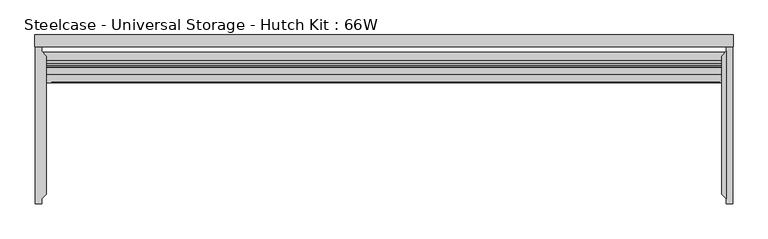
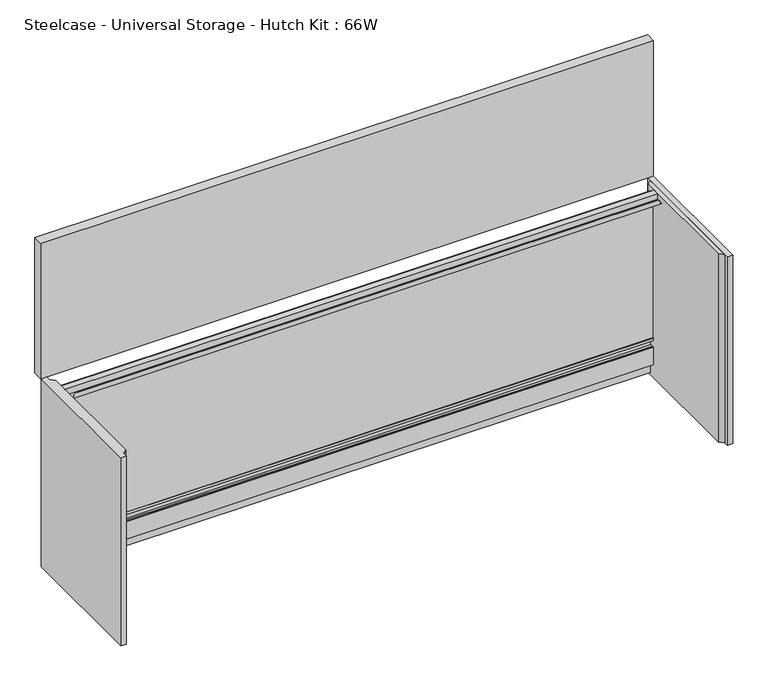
"""IFC4 building model written with IfcOpenShell, lengths in millimetres: furniture geometry, Steelcase - Universal Storage - Hutch Kit : 66W."""

from ifc_helpers import new_model, si_unit, frame, origin, place, context, project, spatial, polyline, circle_curve, outline, extrude, faceted_brep, source, transform, mapped, element, save
from ifc_brep_helpers import plane_surface, cylinder_surface, advanced_brep


def steelcase_universal_storage_hutch_kit_66w_01468b2b(model_context):
    return source(origin(), model_context, "Body", "SolidModel", [
        extrude(outline(polyline([(1660.2202, -39.6494001), (1660.2202, -393.4459972), (1649.222, -382.447795), (1649.222, -50.6476006), (1660.2202, -39.6494001)])), frame((0.0, 0.0, 723.9), z_axis=(0.0, 0.0, 1.0), x_axis=(1.0, 0.0, 0.0)), (0.0, 0.0, 1.0), 544.8554),
        extrude(outline(polyline([(1660.2202, -27.9400006), (1675.5872, -27.9400006), (1675.5872, -405.1553842), (1660.2202, -405.1553842), (1660.2202, -27.9400006)])), frame((0.0, 0.0, 723.9), z_axis=(0.0, 0.0, 1.0), x_axis=(1.0, 0.0, 0.0)), (0.0, 0.0, 1.0), 544.8554),
        extrude(outline(polyline([(16.1798, -405.1553842), (0.8128, -405.1553842), (0.8128, -27.9400006), (16.1798, -27.9400006), (16.1798, -39.6494001), (27.178, -50.6476006), (27.178, -382.447795), (16.1798, -393.4459972), (16.1798, -405.1553842)])), frame((0.0, 0.0, 723.9), z_axis=(0.0, 0.0, 1.0), x_axis=(1.0, 0.0, 0.0)), (0.0, 0.0, 1.0), 544.8554),
        advanced_brep(
        [(1649.222, -78.4097988, 1250.975386), (1649.222, -78.4097988, 1268.7554), (1649.222, -94.7420005, 1268.7554), (1649.222, -94.7420005, 1251.8898651), (1649.222, -114.2492006, 1251.8898651), (1649.222, -114.2492006, 1250.975386), (1649.222, -93.8275986, 1250.975386), (1649.222, -93.8275986, 1267.8410717), (1649.222, -79.3242007, 1267.8410717), (1649.222, -79.3242007, 1250.975386), (27.178, -78.4097988, 1250.975386), (27.178, -79.3242007, 1250.975386), (27.178, -79.3242007, 1267.8410717), (27.178, -93.8275986, 1267.8410717), (27.178, -93.8275986, 1250.975386), (27.178, -114.2492006, 1250.975386), (27.178, -114.2492006, 1251.8898651), (27.178, -94.7420005, 1251.8898651), (27.178, -94.7420005, 1268.7554), (27.178, -78.4097988, 1268.7554), (40.5892014, -114.2492006, 1251.8898651), (40.5892014, -113.3348006, 1251.8898651), (1644.6809148, -113.3348006, 1251.8898651), (1644.6809148, -114.2492006, 1251.8898651), (1644.6809148, -114.2492006, 1256.0554636), (1635.7909148, -114.2492006, 1264.9454636), (49.4792014, -114.2492006, 1264.9454636), (40.5892014, -114.2492006, 1256.0554636), (40.5892014, -113.3348006, 1256.0554636), (49.4792014, -113.3348006, 1264.9454636), (1635.7909148, -113.3348006, 1264.9454636), (1644.6809148, -113.3348006, 1256.0554636)],
        [
            (0, 1),
            (1, 2),
            (2, 3),
            (3, 4),
            (4, 5),
            (5, 6),
            (6, 7),
            (7, 8),
            (8, 9),
            (9, 0),
            (10, 11),
            (11, 12),
            (12, 13),
            (13, 14),
            (14, 15),
            (15, 16),
            (16, 17),
            (17, 18),
            (18, 19),
            (19, 10),
            (0, 10),
            (19, 1),
            (18, 2),
            (17, 3),
            (16, 20),
            (20, 21),
            (21, 22),
            (22, 23),
            (23, 4),
            (23, 24),
            (24, 25, circle_curve(frame((1635.7909148, -114.2492006, 1256.0554636), z_axis=(0.0, -1.0, 0.0), x_axis=(1.0, 0.0, 0.0)), 8.89)),
            (25, 26),
            (26, 27, circle_curve(frame((49.4792014, -114.2492006, 1256.0554636), z_axis=(0.0, -1.0, 0.0), x_axis=(1.0, 0.0, 0.0)), 8.89)),
            (27, 20),
            (15, 5),
            (14, 6),
            (13, 7),
            (12, 8),
            (11, 9),
            (28, 29, circle_curve(frame((49.4792014, -113.3348006, 1256.0554636), z_axis=(0.0, 1.0, 0.0), x_axis=(1.0, 0.0, 0.0)), 8.89)),
            (29, 30),
            (30, 31, circle_curve(frame((1635.7909148, -113.3348006, 1256.0554636), z_axis=(0.0, 1.0, 0.0), x_axis=(1.0, 0.0, 0.0)), 8.89)),
            (31, 22),
            (21, 28),
            (27, 28),
            (31, 24),
            (30, 25),
            (29, 26),
        ],
        [
            plane_surface(frame((1649.222, -78.4097988, 1268.7554), z_axis=(1.0, 0.0, 0.0), x_axis=(0.0, 0.0, 1.0))),
            plane_surface(frame((27.178, -78.4097988, 1268.7554), z_axis=(-1.0, 0.0, 0.0), x_axis=(0.0, 0.0, -1.0))),
            plane_surface(frame((1649.222, -78.4097988, 1250.975386), z_axis=(0.0, 1.0, 0.0), x_axis=(-1.0, 0.0, 0.0))),
            plane_surface(frame((1649.222, -78.4097988, 1268.7554), z_axis=(0.0, 0.0, 1.0), x_axis=(-1.0, 0.0, 0.0))),
            plane_surface(frame((1649.222, -94.7420005, 1268.7554), z_axis=(0.0, -1.0, 0.0), x_axis=(-1.0, 0.0, 0.0))),
            plane_surface(frame((1649.222, -94.7420005, 1251.8898651), z_axis=(0.0, 0.0, 1.0), x_axis=(-1.0, 0.0, 0.0))),
            plane_surface(frame((1649.222, -114.2492006, 1251.8898651), z_axis=(0.0, -1.0, 0.0), x_axis=(-1.0, 0.0, 0.0))),
            plane_surface(frame((1649.222, -114.2492006, 1250.975386), z_axis=(0.0, 0.0, -1.0), x_axis=(-1.0, 0.0, 0.0))),
            plane_surface(frame((1649.222, -93.8275986, 1250.975386), z_axis=(0.0, 1.0, 0.0), x_axis=(-1.0, 0.0, 0.0))),
            plane_surface(frame((1649.222, -93.8275986, 1267.8410717), z_axis=(0.0, 0.0, -1.0), x_axis=(-1.0, 0.0, 0.0))),
            plane_surface(frame((1649.222, -79.3242007, 1267.8410717), z_axis=(0.0, -1.0, 0.0), x_axis=(-1.0, 0.0, 0.0))),
            plane_surface(frame((1649.222, -79.3242007, 1250.975386), z_axis=(0.0, 0.0, -1.0), x_axis=(-1.0, 0.0, 0.0))),
            plane_surface(frame((40.5892014, -113.3348006, 1251.8898651), z_axis=(0.0, 1.0, 0.0), x_axis=(0.0, 0.0, 1.0))),
            plane_surface(frame((40.5892014, -114.2492006, 1256.0554636), z_axis=(-1.0, 0.0, 0.0), x_axis=(0.0, 1.0, 0.0))),
            plane_surface(frame((1644.6809148, -114.2492006, 1251.8898651), z_axis=(1.0, 0.0, 0.0), x_axis=(0.0, 1.0, 0.0))),
            cylinder_surface(frame((1635.7909148, -113.3348006, 1256.0554636), z_axis=(0.0, -1.0, 0.0), x_axis=(1.0, 0.0, 0.0)), 8.89),
            plane_surface(frame((1635.7909148, -114.2492006, 1264.9454636), z_axis=(0.0, 0.0, 1.0), x_axis=(0.0, 1.0, 0.0))),
            cylinder_surface(frame((49.4792014, -113.3348006, 1256.0554636), z_axis=(0.0, -1.0, 0.0), x_axis=(1.0, 0.0, 0.0)), 8.89),
        ],
        [
            (0, [[1, 2, 3, 4, 5, 6, 7, 8, 9, 10]]),
            (1, [[11, 12, 13, 14, 15, 16, 17, 18, 19, 20]]),
            (2, [[-1, 21, -20, 22]]),
            (3, [[-2, -22, -19, 23]]),
            (4, [[-3, -23, -18, 24]]),
            (5, [[-4, -24, -17, 25, 26, 27, 28, 29]]),
            (6, [[-5, -29, 30, 31, 32, 33, 34, -25, -16, 35]]),
            (7, [[-6, -35, -15, 36]]),
            (8, [[-7, -36, -14, 37]]),
            (9, [[-8, -37, -13, 38]]),
            (10, [[-9, -38, -12, 39]]),
            (11, [[-10, -39, -11, -21]]),
            (12, [[40, 41, 42, 43, -27, 44]]),
            (13, [[-34, 45, -44, -26]]),
            (14, [[-30, -28, -43, 46]]),
            (15, [[-31, -46, -42, 47]]),
            (16, [[-32, -47, -41, 48]]),
            (17, [[-33, -48, -40, -45]]),
        ],
    ),
        faceted_brep([(1649.222, -60.7822002, 848.0044), (1649.222, -60.7822002, 833.8820223), (1649.222, -74.2695991, 833.8820223), (1649.222, -74.2695991, 839.215999), (1649.222, -75.7936022, 839.215999), (1649.222, -75.7936022, 831.8500242), (1649.222, -60.7652681, 831.8500242), (1649.222, -60.7652681, 808.7613899), (1649.222, -64.6684001, 808.7613899), (1649.222, -64.6684001, 812.8000242), (1649.222, -70.7136025, 812.8000242), (1649.222, -70.7136025, 806.4499758), (1649.222, -74.2695991, 806.4499758), (1649.222, -74.2695991, 812.8000242), (1649.222, -75.7936022, 812.8000242), (1649.222, -75.7936022, 762.0), (1649.222, -60.7652681, 762.0), (1649.222, -60.7652681, 730.377), (1649.222, -50.6476006, 730.377), (1649.222, -50.6476006, 848.0044), (27.178, -60.7822002, 848.0044), (27.178, -50.6476006, 848.0044), (27.178, -50.6476006, 730.377), (27.178, -60.7652681, 730.377), (27.178, -60.7652681, 762.0), (27.178, -75.7936022, 762.0), (27.178, -75.7936022, 812.8000242), (27.178, -74.2695991, 812.8000242), (27.178, -74.2695991, 806.4499758), (27.178, -70.7136025, 806.4499758), (27.178, -70.7136025, 812.8000242), (27.178, -64.6684001, 812.8000242), (27.178, -64.6684001, 808.7613899), (27.178, -60.7652681, 808.7613899), (27.178, -60.7652681, 831.8500242), (27.178, -75.7936022, 831.8500242), (27.178, -75.7936022, 839.215999), (27.178, -74.2695991, 839.215999), (27.178, -74.2695991, 833.8820223), (27.178, -60.7822002, 833.8820223), (16.1798, -50.6476006, 730.377), (16.1798, -41.1480006, 730.377), (1660.2202, -41.1480006, 730.377), (1660.2202, -50.6476006, 730.377), (1660.2202, -50.6476006, 848.0044), (1660.2202, -41.1480006, 848.0044), (16.1798, -41.1480006, 848.0044), (16.1798, -50.6476006, 848.0044)], [[[0, 1, 2, 3, 4, 5, 6, 7, 8, 9, 10, 11, 12, 13, 14, 15, 16, 17, 18, 19]], [[20, 21, 22, 23, 24, 25, 26, 27, 28, 29, 30, 31, 32, 33, 34, 35, 36, 37, 38, 39]], [[1, 0, 20, 39]], [[2, 1, 39, 38]], [[3, 2, 38, 37]], [[4, 3, 37, 36]], [[5, 4, 36, 35]], [[6, 5, 35, 34]], [[7, 6, 34, 33]], [[8, 7, 33, 32]], [[9, 8, 32, 31]], [[10, 9, 31, 30]], [[11, 10, 30, 29]], [[12, 11, 29, 28]], [[13, 12, 28, 27]], [[14, 13, 27, 26]], [[15, 14, 26, 25]], [[16, 15, 25, 24]], [[17, 16, 24, 23]], [[18, 17, 23, 22, 40, 41, 42, 43]], [[0, 19, 44, 45, 46, 47, 21, 20]], [[44, 43, 42, 45]], [[47, 46, 41, 40]], [[43, 44, 19, 18]], [[47, 40, 22, 21]], [[45, 42, 41, 46]]]),
        extrude(outline(polyline([(1649.222, -61.9759999), (1649.222, -67.5258996), (27.178, -67.5258996), (27.178, -61.9759999), (1649.222, -61.9759999)])), frame((0.0, 0.0, 833.8820223), z_axis=(0.0, 0.0, 1.0), x_axis=(1.0, 0.0, 0.0)), (0.0, 0.0, 1.0), 423.4941359),
        extrude(outline(polyline([(1649.222, -67.5258996), (1649.222, -73.0618558), (27.178, -73.0618558), (27.178, -67.5258996), (1649.222, -67.5258996)])), frame((0.0, 0.0, 833.8820223), z_axis=(0.0, 0.0, 1.0), x_axis=(1.0, 0.0, 0.0)), (0.0, 0.0, 1.0), 423.4941359),
        extrude(outline(polyline([(1676.4, 0.0), (1676.4, -27.9400006), (0.0, -27.9400006), (0.0, 0.0), (1676.4, 0.0)])), frame((0.0, 0.0, 1268.7554), z_axis=(0.0, 0.0, 1.0), x_axis=(1.0, 0.0, 0.0)), (0.0, 0.0, 1.0), 391.9220132),
    ])


if __name__ == "__main__":
    model = new_model("IFC4")
    model_context = context("Model", 3, world=origin())
    ifc_project = project(units=[si_unit("LENGTHUNIT", "METRE", prefix="MILLI")], contexts=[model_context])
    site = spatial("IfcSite", under=ifc_project)
    building = spatial("IfcBuilding", under=site)
    placement = place(None, origin())
    steelcase_universal_storage_hutch_kit_66w_shape = steelcase_universal_storage_hutch_kit_66w_01468b2b(model_context)
    element("IfcFurniture", 1, ObjectType="Steelcase - Universal Storage - Hutch Kit : 66W", at=placement, inside=building, context=model_context, shape_type="MappedRepresentation", body=[
        mapped(steelcase_universal_storage_hutch_kit_66w_shape, transform((0.0, 0.0, 0.0), x_axis=(1.0, 0.0, 0.0), y_axis=(0.0, 1.0, 0.0), z_axis=(0.0, 0.0, 1.0))),
    ])
    save(model, "model.ifc")
